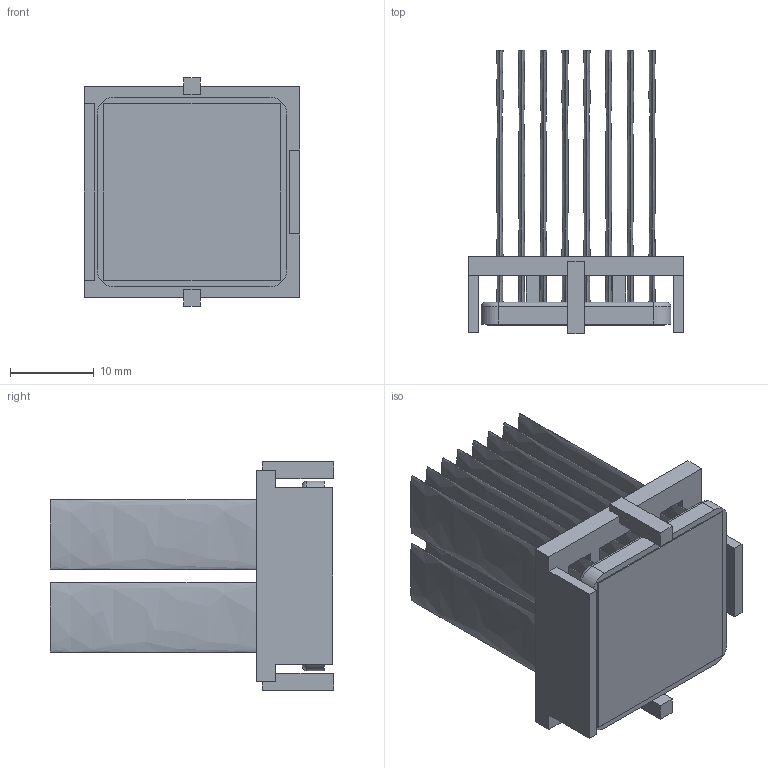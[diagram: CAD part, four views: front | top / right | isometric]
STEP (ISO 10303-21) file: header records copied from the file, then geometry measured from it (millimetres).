
FILE_DESCRIPTION (( 'STEP AP214' ), '1' );
FILE_NAME ('INM23001-33W_2.6+O.STEP', '2023-02-15T19:40:03', ( '' ), ( '' ), 'SwSTEP 2.0', 'SolidWorks 2020', '' );
FILE_SCHEMA (( 'AUTOMOTIVE_DESIGN' ));
Length unit declared in the file: inch
Products named in the file (1): INM23001-33W_2.6+O
Bounding box: 25.7 x 33.7 x 27.2 mm (x, y, z)
Volume: 4843.3 mm3; surface area: 12049.7 mm2
Topology: 3 solids, 3 shells, 126 faces, 304 edges, 200 vertices
Faces by surface type: plane 82, bspline 32, cylinder 8, torus 4
Entity records: 5404 total; most frequent: CARTESIAN_POINT 1047, ORIENTED_EDGE 608, DIRECTION 450, EDGE_CURVE 304, LINE 220, VECTOR 220, VERTEX_POINT 200, EDGE_LOOP 144
